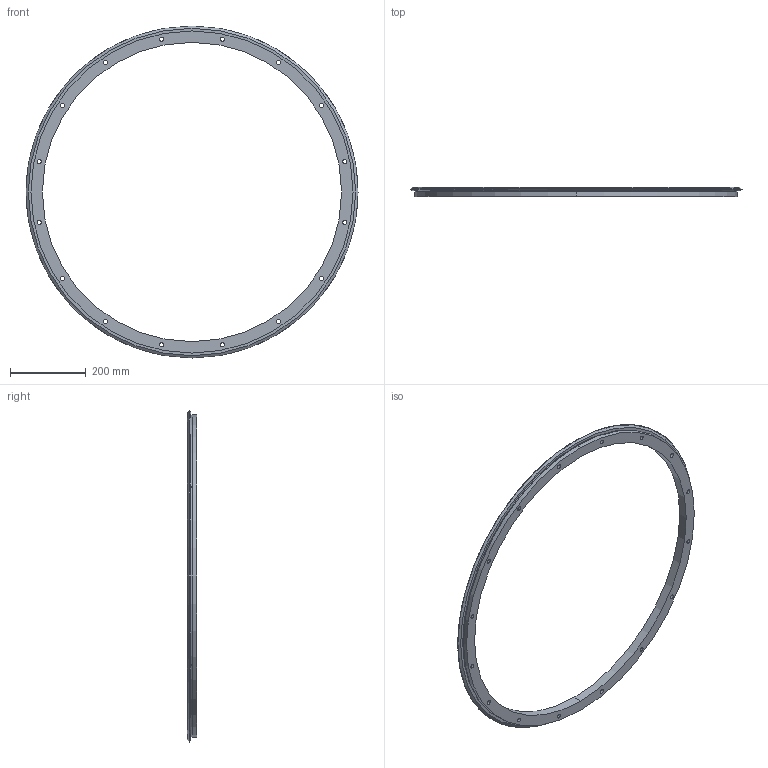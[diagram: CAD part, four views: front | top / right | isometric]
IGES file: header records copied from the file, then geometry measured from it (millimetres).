
Start section: 3D InterOp IGES (v. 2020 1.0.1), Spatial Corp. Copyright (c) 1999-2017.
Global section: file name: rel_874_r360.igs; native system: Spatial Corp.; preprocessor: 3D InterOp ACIS/IGES; author: TraceParts; organization: TraceParts S.A.; date: 20220624.102649; units: millimetre
Bounding box: 874.22 x 24 x 874.22 mm (x, y, z)
Surface area: 349801.4 mm2 (no closed solid volume)
Topology: 0 solids, 0 shells, 98 faces, 456 edges, 456 vertices
Faces by surface type: revolution 78, extrusion 20
